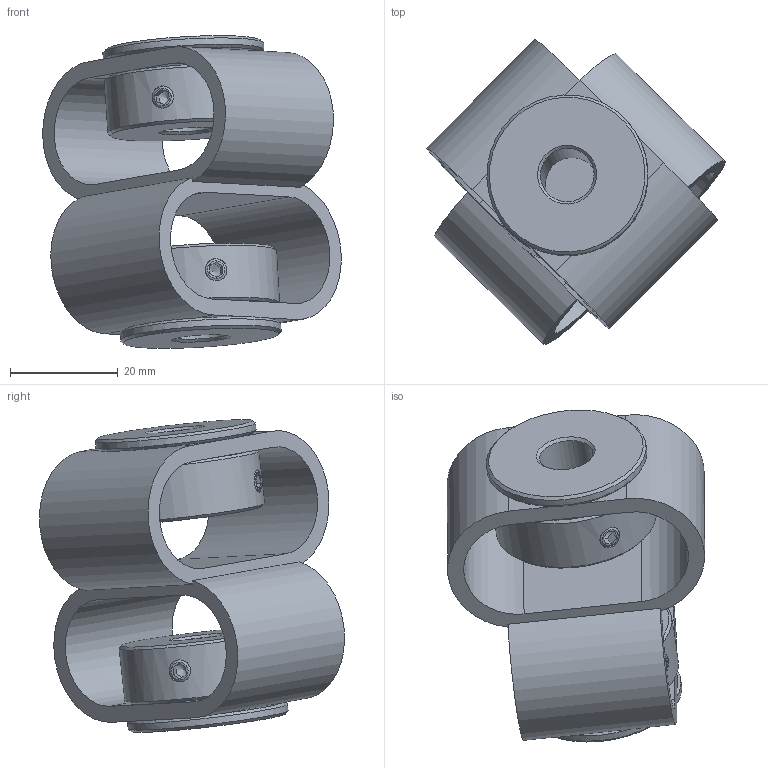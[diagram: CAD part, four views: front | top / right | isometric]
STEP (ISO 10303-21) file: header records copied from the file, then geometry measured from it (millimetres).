
FILE_DESCRIPTION(/* description */ (''),/* implementation_level */ '2;1');
FILE_NAME(/* name */ 'E:\ABP_bauteile\Doppelschlaufenkupplung\DKPS_5658\Doppelschlaufenkupplung_DKPS_5658_10_10.stp',/* time_stamp */ '2015-03-13T11:15:49+01:00',/* author */ ('Rob'),/* organization */ (''),/* preprocessor_version */ 'ST-DEVELOPER v15.6',/* originating_system */ 'Autodesk Inventor 2015',/* authorisation */ '');
FILE_SCHEMA (('CONFIG_CONTROL_DESIGN'));
Length unit declared in the file: millimetre
Products named in the file (1): Bauteil25
Bounding box: 55.53 x 56.74 x 58.16 mm (x, y, z)
Volume: 33952.9 mm3; surface area: 18166.7 mm2
Topology: 1 solids, 1 shells, 150 faces, 372 edges, 222 vertices
Faces by surface type: plane 84, cone 38, cylinder 28
Full cylindrical faces by diameter (mm): 4.134 x8, 10 x2, 21.5 x2, 23 x4, 30 x4
Entity records: 4284 total; most frequent: CARTESIAN_POINT 1091, DIRECTION 678, ORIENTED_EDGE 580, EDGE_CURVE 290, AXIS2_PLACEMENT_3D 273, EDGE_LOOP 218, VERTEX_POINT 186, FACE_OUTER_BOUND 150
